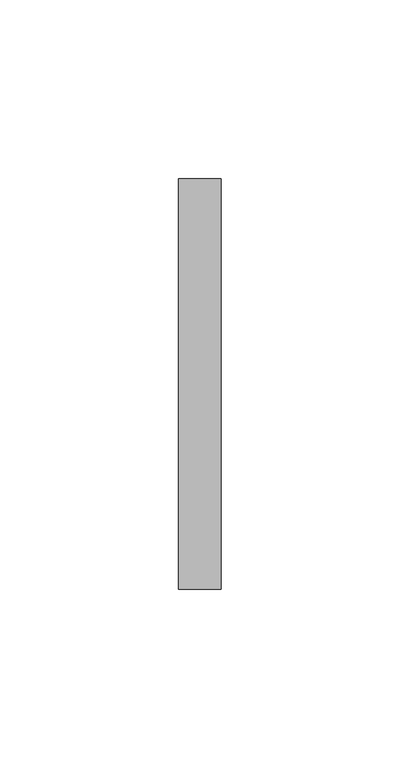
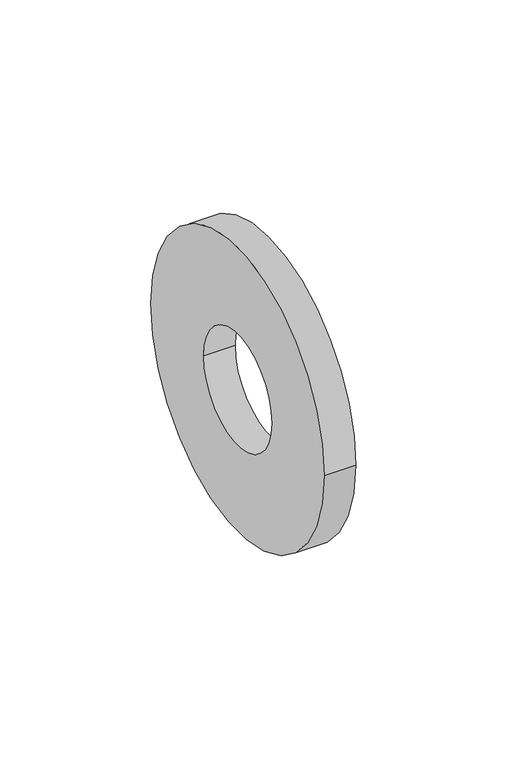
"""IFC4 building model written with IfcOpenShell, lengths in millimetres: pipe fitting geometry, NIRON accesorio brida : Estándar."""

from ifc_helpers import new_model, si_unit, point, frame, origin, origin_2d, place, context, project, spatial, circle_curve, trimmed, segment, composite_curve, outline, extrude, source, transform, mapped, element, save


def pipe_fitting_c2958fd6(model_context):
    return source(origin(), model_context, "Body", "SweptSolid", [
        extrude(outline(composite_curve([segment(trimmed(circle_curve(origin_2d(), 57.5), [point((57.5, 0.0))], [point((-57.5, 0.0))], False, "CARTESIAN"), True, "CONTINUOUS"), segment(trimmed(circle_curve(origin_2d(), 57.5), [point((-57.5, 0.0))], [point((57.5, 0.0))], False, "CARTESIAN"), True, "CONTINUOUS")], self_intersect=False), holes=[composite_curve([segment(trimmed(circle_curve(origin_2d(), 22.5), [point((22.5, 0.0))], [point((-22.5, 0.0))], True, "CARTESIAN"), True, "CONTINUOUS"), segment(trimmed(circle_curve(origin_2d(), 22.5), [point((-22.5, 0.0))], [point((22.5, 0.0))], True, "CARTESIAN"), True, "CONTINUOUS")], self_intersect=False)]), frame((2.4830127, 0.0, 0.0), z_axis=(1.0, 0.0, 0.0), x_axis=(0.0, 1.0, 0.0)), (0.0, 0.0, 1.0), 12.0),
    ])


if __name__ == "__main__":
    model = new_model("IFC4")
    model_context = context("Model", 3, world=origin())
    ifc_project = project(units=[si_unit("LENGTHUNIT", "METRE", prefix="MILLI")], contexts=[model_context])
    site = spatial("IfcSite", under=ifc_project)
    building = spatial("IfcBuilding", under=site)
    placement = place(None, origin())
    pipe_fitting_shape = pipe_fitting_c2958fd6(model_context)
    element("IfcPipeFitting", 1, ObjectType="NIRON accesorio brida : Estándar", at=placement, inside=building, context=model_context, shape_type="MappedRepresentation", body=[
        mapped(pipe_fitting_shape, transform((0.0, 0.0, 0.0), x_axis=(1.0, 0.0, 0.0), y_axis=(0.0, 1.0, 0.0), z_axis=(0.0, 0.0, 1.0))),
    ])
    save(model, "model.ifc")
